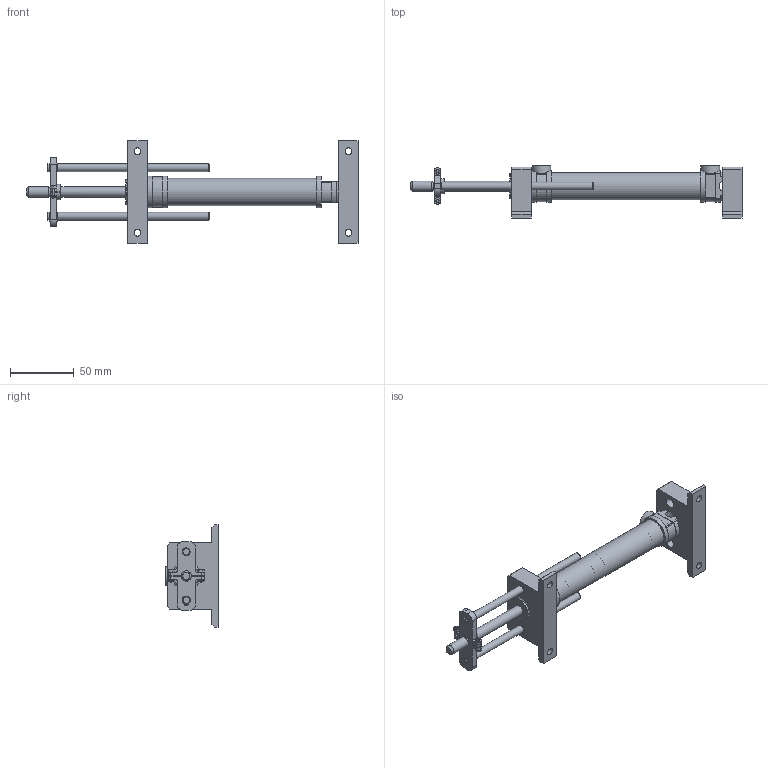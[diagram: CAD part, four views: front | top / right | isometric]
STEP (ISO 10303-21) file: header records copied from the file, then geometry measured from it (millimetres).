
FILE_DESCRIPTION(/* description */ ('Mini-cylinders series ISO 6432 series TP-'),/* implementation_level */ '2;1');
FILE_NAME(/* name */ 'cilindro_guidato3.stp',/* time_stamp */ '2024-11-28T14:56:58+01:00',/* author */ ('R5800u'),/* organization */ ('METALWORK'),/* preprocessor_version */ 'ST-DEVELOPER v20',/* originating_system */ 'Autodesk Inventor 2025',/* authorisation */ '');
FILE_SCHEMA (('AUTOMOTIVE_DESIGN { 1 0 10303 214 3 1 1 }'));
Products named in the file (14): 1103200080CP/0-0-0-A-0-0; ISO_6432_TP_DI20-110-HF; ISO_6432_TP_DI20-110-80-BR; ISO_6432_TP_DI20-110-HR; ISO_6432_TP_DI20-110-PR; ISO_6432_TP_DI20-110-PF; anello_stelo; AS 1427 - M2,5 x 8; AS 1112 - M2,5  Tipo 5; barra_circolare_6mm; Bush GB/T 18324 C 6 X 8 X 6; supporto2; ISO_6432_TP_DI20-11080-R; ASME B18.27.1 NA1 - 7/32
Assembly tree (21 placements, depth 2):
  1103200080CP/0-0-0-A-0-0
    ISO_6432_TP_DI20-110-HF
    ISO_6432_TP_DI20-110-80-BR
    ISO_6432_TP_DI20-110-HR
    ISO_6432_TP_DI20-110-PR
    ISO_6432_TP_DI20-110-PF
    anello_stelo
    AS 1427 - M2,5 x 8  x2
    AS 1112 - M2,5  Tipo 5  x2
    supporto2  x2
    barra_circolare_6mm  x2
    Bush GB/T 18324 C 6 X 8 X 6  x4
    ASME B18.27.1 NA1 - 7/32  x2
    ISO_6432_TP_DI20-11080-R
Bounding box: 260.39 x 41 x 80 mm (x, y, z)
Volume: 108987.2 mm3; surface area: 60431.7 mm2
Topology: 22 solids, 22 shells, 393 faces, 945 edges, 620 vertices
Faces by surface type: plane 184, cylinder 115, cone 76, torus 16, sphere 2
Full cylindrical faces by diameter (mm): 0.66 x4, 1.946 x2, 2.013 x2, 2.224 x2, 2.5 x2, 2.9 x4, 5 x4, 5.3 x4, 6 x12, 6.6 x4, 7.2 x1, 8 x12, 8.566 x2, 14.88 x2, 19.8 x1, 20 x4, 21.27 x1, 22 x3, 25 x2
Entity records: 8779 total; most frequent: CARTESIAN_POINT 1793, DIRECTION 1418, ORIENTED_EDGE 1282, EDGE_CURVE 641, AXIS2_PLACEMENT_3D 552, VERTEX_POINT 423, EDGE_LOOP 320, LINE 314
